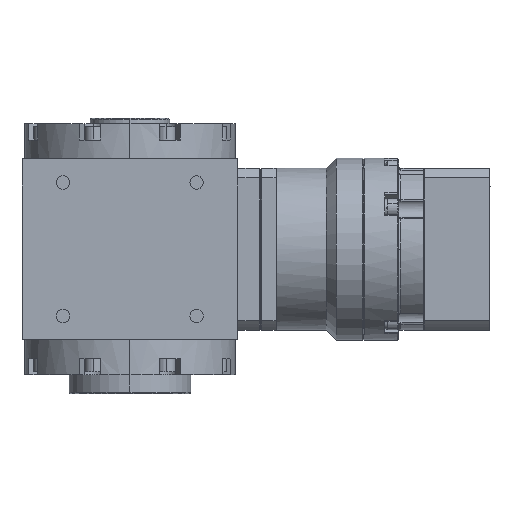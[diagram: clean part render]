
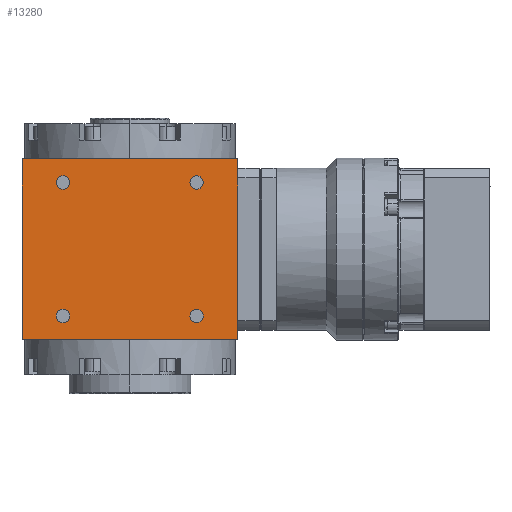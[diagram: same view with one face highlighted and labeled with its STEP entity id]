
A CAD part, left-side view. The second image highlights one B-rep face of the part: STEP entity #13280.
In plain terms, the highlighted planar face has unit normal (-1, 0, 0).
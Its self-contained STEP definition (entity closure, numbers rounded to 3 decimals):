
#182 = VERTEX_POINT ( 'NONE', #23632 ) ;
#587 = FACE_BOUND ( 'NONE', #3375, .T. ) ;
#782 = ORIENTED_EDGE ( 'NONE', *, *, #7695, .T. ) ;
#784 = ORIENTED_EDGE ( 'NONE', *, *, #27875, .T. ) ;
#1059 = EDGE_CURVE ( 'NONE', #24276, #19840, #1162, .T. ) ;
#1121 = ORIENTED_EDGE ( 'NONE', *, *, #2023, .F. ) ;
#1141 = EDGE_CURVE ( 'NONE', #27055, #21212, #7419, .T. ) ;
#1162 = LINE ( 'NONE', #30879, #26171 ) ;
#1464 = AXIS2_PLACEMENT_3D ( 'NONE', #38654, #3051, #14975 ) ;
#1806 = CARTESIAN_POINT ( 'NONE',  ( -40., 22.249, 24.749 ) ) ;
#2023 = EDGE_CURVE ( 'NONE', #5395, #20003, #4762, .T. ) ;
#2177 = AXIS2_PLACEMENT_3D ( 'NONE', #8526, #2673, #14585 ) ;
#2673 = DIRECTION ( 'NONE',  ( 1., 0., 0. ) ) ;
#3051 = DIRECTION ( 'NONE',  ( 1., 0., 0. ) ) ;
#3068 = ORIENTED_EDGE ( 'NONE', *, *, #15186, .T. ) ;
#3155 = DIRECTION ( 'NONE',  ( 0., 0., 1. ) ) ;
#3375 = EDGE_LOOP ( 'NONE', ( #25954, #784 ) ) ;
#3861 = VECTOR ( 'NONE', #37229, 1000. ) ;
#4268 = CARTESIAN_POINT ( 'NONE',  ( -40., 40., -33.5 ) ) ;
#4727 = CIRCLE ( 'NONE', #7234, 2.5 ) ;
#4762 = LINE ( 'NONE', #19049, #3861 ) ;
#4768 = CIRCLE ( 'NONE', #31018, 2.5 ) ;
#5395 = VERTEX_POINT ( 'NONE', #9722 ) ;
#5710 = CARTESIAN_POINT ( 'NONE',  ( -40., 27.249, 24.749 ) ) ;
#5740 = CARTESIAN_POINT ( 'NONE',  ( -40., -40., -33.5 ) ) ;
#5923 = DIRECTION ( 'NONE',  ( 0., -1., 0. ) ) ;
#7234 = AXIS2_PLACEMENT_3D ( 'NONE', #26862, #29393, #5923 ) ;
#7419 = CIRCLE ( 'NONE', #29286, 2.5 ) ;
#7435 = EDGE_LOOP ( 'NONE', ( #38505, #17931, #36770, #1121 ) ) ;
#7695 = EDGE_CURVE ( 'NONE', #21212, #27055, #4768, .T. ) ;
#7732 = AXIS2_PLACEMENT_3D ( 'NONE', #18775, #15828, #22852 ) ;
#8526 = CARTESIAN_POINT ( 'NONE',  ( -40., 24.749, 24.749 ) ) ;
#8690 = EDGE_CURVE ( 'NONE', #20003, #19840, #32530, .T. ) ;
#8786 = ORIENTED_EDGE ( 'NONE', *, *, #15802, .T. ) ;
#9018 = LINE ( 'NONE', #30152, #11270 ) ;
#9185 = FACE_BOUND ( 'NONE', #35514, .T. ) ;
#9467 = CARTESIAN_POINT ( 'NONE',  ( -40., -27.249, -24.749 ) ) ;
#9484 = EDGE_CURVE ( 'NONE', #20511, #182, #26545, .T. ) ;
#9701 = AXIS2_PLACEMENT_3D ( 'NONE', #16113, #30801, #28438 ) ;
#9722 = CARTESIAN_POINT ( 'NONE',  ( -40., 40., 33.5 ) ) ;
#10166 = EDGE_CURVE ( 'NONE', #24276, #5395, #9018, .T. ) ;
#10910 = CARTESIAN_POINT ( 'NONE',  ( -40., 24.749, -24.749 ) ) ;
#11270 = VECTOR ( 'NONE', #3155, 1000. ) ;
#12270 = VECTOR ( 'NONE', #35668, 1000. ) ;
#13054 = CARTESIAN_POINT ( 'NONE',  ( -40., 40., -33.5 ) ) ;
#13280 = ADVANCED_FACE ( 'NONE', ( #35979, #30317, #24050, #9185, #587 ), #21115, .T. ) ;
#13327 = CIRCLE ( 'NONE', #1464, 2.5 ) ;
#13453 = DIRECTION ( 'NONE',  ( 0., 0., 1. ) ) ;
#13460 = DIRECTION ( 'NONE',  ( 1., 0., 0. ) ) ;
#13672 = CARTESIAN_POINT ( 'NONE',  ( -40., 22.249, -24.749 ) ) ;
#14402 = CARTESIAN_POINT ( 'NONE',  ( -40., -40., 33.5 ) ) ;
#14585 = DIRECTION ( 'NONE',  ( 0., -1., 0. ) ) ;
#14975 = DIRECTION ( 'NONE',  ( 0., -1., 0. ) ) ;
#15004 = AXIS2_PLACEMENT_3D ( 'NONE', #16228, #25418, #37543 ) ;
#15186 = EDGE_CURVE ( 'NONE', #16211, #26130, #13327, .T. ) ;
#15530 = CARTESIAN_POINT ( 'NONE',  ( -40., -27.249, 24.749 ) ) ;
#15802 = EDGE_CURVE ( 'NONE', #182, #20511, #19601, .T. ) ;
#15828 = DIRECTION ( 'NONE',  ( 1., 0., 0. ) ) ;
#16113 = CARTESIAN_POINT ( 'NONE',  ( -40., -24.749, -24.749 ) ) ;
#16192 = DIRECTION ( 'NONE',  ( -1., 0., 0. ) ) ;
#16211 = VERTEX_POINT ( 'NONE', #18718 ) ;
#16228 = CARTESIAN_POINT ( 'NONE',  ( -40., -24.749, 24.749 ) ) ;
#17557 = EDGE_CURVE ( 'NONE', #35773, #33833, #31504, .T. ) ;
#17931 = ORIENTED_EDGE ( 'NONE', *, *, #1059, .T. ) ;
#18718 = CARTESIAN_POINT ( 'NONE',  ( -40., -22.249, 24.749 ) ) ;
#18775 = CARTESIAN_POINT ( 'NONE',  ( -40., -24.749, -24.749 ) ) ;
#19049 = CARTESIAN_POINT ( 'NONE',  ( -40., 0., 33.5 ) ) ;
#19601 = CIRCLE ( 'NONE', #7732, 2.5 ) ;
#19678 = CARTESIAN_POINT ( 'NONE',  ( -40., -40., -33.5 ) ) ;
#19840 = VERTEX_POINT ( 'NONE', #19678 ) ;
#20003 = VERTEX_POINT ( 'NONE', #14402 ) ;
#20511 = VERTEX_POINT ( 'NONE', #9467 ) ;
#20996 = EDGE_LOOP ( 'NONE', ( #782, #30526 ) ) ;
#21115 = PLANE ( 'NONE',  #21749 ) ;
#21212 = VERTEX_POINT ( 'NONE', #13672 ) ;
#21749 = AXIS2_PLACEMENT_3D ( 'NONE', #4268, #16192, #13453 ) ;
#22844 = CARTESIAN_POINT ( 'NONE',  ( -40., 24.749, -24.749 ) ) ;
#22852 = DIRECTION ( 'NONE',  ( 0., -1., 0. ) ) ;
#23481 = EDGE_LOOP ( 'NONE', ( #24921, #8786 ) ) ;
#23632 = CARTESIAN_POINT ( 'NONE',  ( -40., -22.249, -24.749 ) ) ;
#24050 = FACE_BOUND ( 'NONE', #23481, .T. ) ;
#24276 = VERTEX_POINT ( 'NONE', #13054 ) ;
#24921 = ORIENTED_EDGE ( 'NONE', *, *, #9484, .T. ) ;
#24991 = EDGE_CURVE ( 'NONE', #26130, #16211, #31860, .T. ) ;
#25418 = DIRECTION ( 'NONE',  ( 1., 0., 0. ) ) ;
#25954 = ORIENTED_EDGE ( 'NONE', *, *, #17557, .T. ) ;
#26130 = VERTEX_POINT ( 'NONE', #15530 ) ;
#26171 = VECTOR ( 'NONE', #27584, 1000. ) ;
#26545 = CIRCLE ( 'NONE', #9701, 2.5 ) ;
#26862 = CARTESIAN_POINT ( 'NONE',  ( -40., 24.749, 24.749 ) ) ;
#27055 = VERTEX_POINT ( 'NONE', #32171 ) ;
#27584 = DIRECTION ( 'NONE',  ( 0., -1., 0. ) ) ;
#27875 = EDGE_CURVE ( 'NONE', #33833, #35773, #4727, .T. ) ;
#28231 = ORIENTED_EDGE ( 'NONE', *, *, #24991, .T. ) ;
#28438 = DIRECTION ( 'NONE',  ( 0., -1., 0. ) ) ;
#29286 = AXIS2_PLACEMENT_3D ( 'NONE', #22844, #13460, #34764 ) ;
#29393 = DIRECTION ( 'NONE',  ( 1., 0., 0. ) ) ;
#30152 = CARTESIAN_POINT ( 'NONE',  ( -40., 40., -33.5 ) ) ;
#30317 = FACE_BOUND ( 'NONE', #20996, .T. ) ;
#30526 = ORIENTED_EDGE ( 'NONE', *, *, #1141, .T. ) ;
#30801 = DIRECTION ( 'NONE',  ( 1., 0., 0. ) ) ;
#30879 = CARTESIAN_POINT ( 'NONE',  ( -40., 0., -33.5 ) ) ;
#31018 = AXIS2_PLACEMENT_3D ( 'NONE', #10910, #34969, #35363 ) ;
#31504 = CIRCLE ( 'NONE', #2177, 2.5 ) ;
#31860 = CIRCLE ( 'NONE', #15004, 2.5 ) ;
#32171 = CARTESIAN_POINT ( 'NONE',  ( -40., 27.249, -24.749 ) ) ;
#32530 = LINE ( 'NONE', #5740, #12270 ) ;
#33833 = VERTEX_POINT ( 'NONE', #5710 ) ;
#34764 = DIRECTION ( 'NONE',  ( 0., -1., 0. ) ) ;
#34969 = DIRECTION ( 'NONE',  ( 1., 0., 0. ) ) ;
#35363 = DIRECTION ( 'NONE',  ( 0., -1., 0. ) ) ;
#35514 = EDGE_LOOP ( 'NONE', ( #28231, #3068 ) ) ;
#35668 = DIRECTION ( 'NONE',  ( 0., 0., -1. ) ) ;
#35773 = VERTEX_POINT ( 'NONE', #1806 ) ;
#35979 = FACE_OUTER_BOUND ( 'NONE', #7435, .T. ) ;
#36770 = ORIENTED_EDGE ( 'NONE', *, *, #8690, .F. ) ;
#37229 = DIRECTION ( 'NONE',  ( 0., -1., 0. ) ) ;
#37543 = DIRECTION ( 'NONE',  ( 0., -1., 0. ) ) ;
#38505 = ORIENTED_EDGE ( 'NONE', *, *, #10166, .F. ) ;
#38654 = CARTESIAN_POINT ( 'NONE',  ( -40., -24.749, 24.749 ) ) ;
